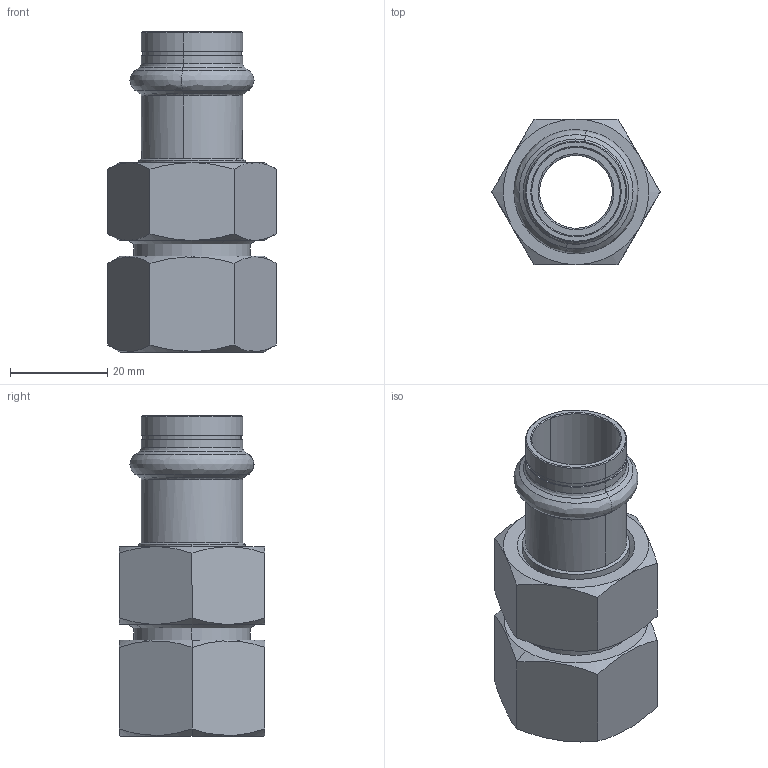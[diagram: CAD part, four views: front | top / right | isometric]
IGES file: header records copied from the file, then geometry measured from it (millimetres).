
Start section: Elysium IGES Interface
Global section: file name: F:\3d modellen sudo\S-Pr VP\SP6330GV\6330GVW1834.igs; native system: CoCreate Modeling 17.00A  17-Jun-2010; preprocessor: CoCreate IGES_3D V2.2; author: Unknown; organization: Unknown; date: 20130129.093311; units: millimetre
Bounding box: 34.64 x 30 x 66 mm (x, y, z)
Volume: 18312.9 mm3; surface area: 14361.5 mm2
Topology: 3 solids, 3 shells, 121 faces, 270 edges, 160 vertices
Faces by surface type: bspline 121
